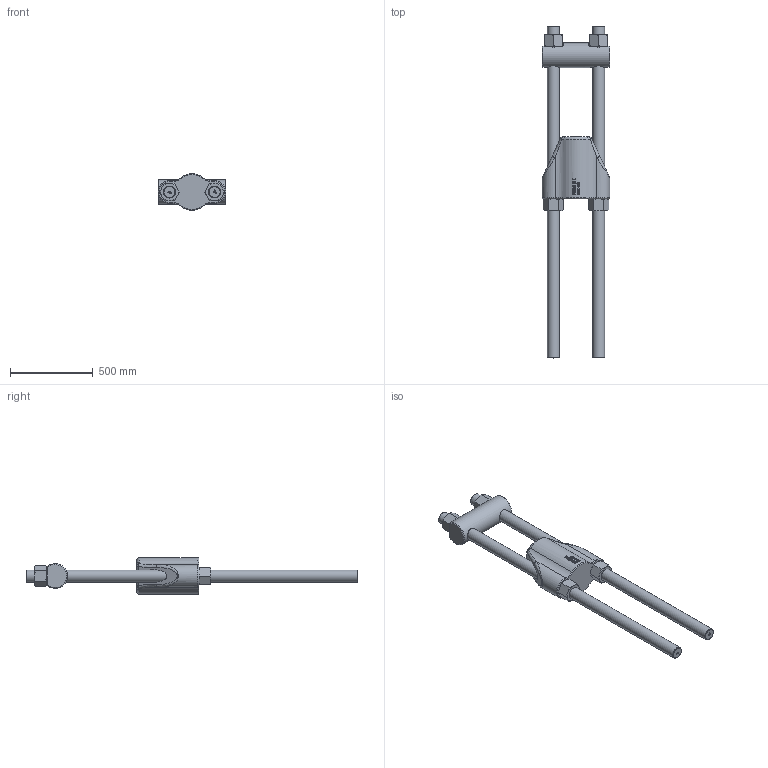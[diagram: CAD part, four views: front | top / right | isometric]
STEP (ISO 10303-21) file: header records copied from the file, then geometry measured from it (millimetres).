
FILE_DESCRIPTION(/* description */ (''),/* implementation_level */ '2;1');
FILE_NAME(/* name */ 'D:\Clienti\Redaelli (inventor)\BRC\STEP\Arrangemet\BRC068 72 111 0.stp',/* time_stamp */ '2021-05-08T08:31:48+02:00',/* author */ ('fabri'),/* organization */ (''),/* preprocessor_version */ 'ST-DEVELOPER v16.13',/* originating_system */ 'Autodesk Inventor 2018',/* authorisation */ '');
FILE_SCHEMA (('AUTOMOTIVE_DESIGN { 1 0 10303 214 3 1 1 }'));
Length unit declared in the file: millimetre
Products named in the file (5): BRC020 72 111 0; BRC020 71 112 0; BRC020 71 114 0_ROD; BRC020 71 113 0; BRC020 71 114 0_NUT
Assembly tree (8 placements, depth 2):
  BRC020 72 111 0
    BRC020 71 112 0
    BRC020 71 114 0_ROD  x2
    BRC020 71 113 0
    BRC020 71 114 0_NUT  x4
Bounding box: 408 x 2000 x 219.63 mm (x, y, z)
Volume: 41092794.5 mm3; surface area: 1918304.8 mm2
Topology: 8 solids, 8 shells, 1634 faces, 4314 edges, 2846 vertices
Faces by surface type: bspline 807, plane 691, cone 62, cylinder 50, torus 20, sphere 4
Full cylindrical faces by diameter (mm): 67.67 x4, 72 x2, 75 x4, 148 x1
Entity records: 32228 total; most frequent: CARTESIAN_POINT 13085, ORIENTED_EDGE 4642, DIRECTION 2553, EDGE_CURVE 2321, VERTEX_POINT 1538, LINE 1201, VECTOR 1201, EDGE_LOOP 985
